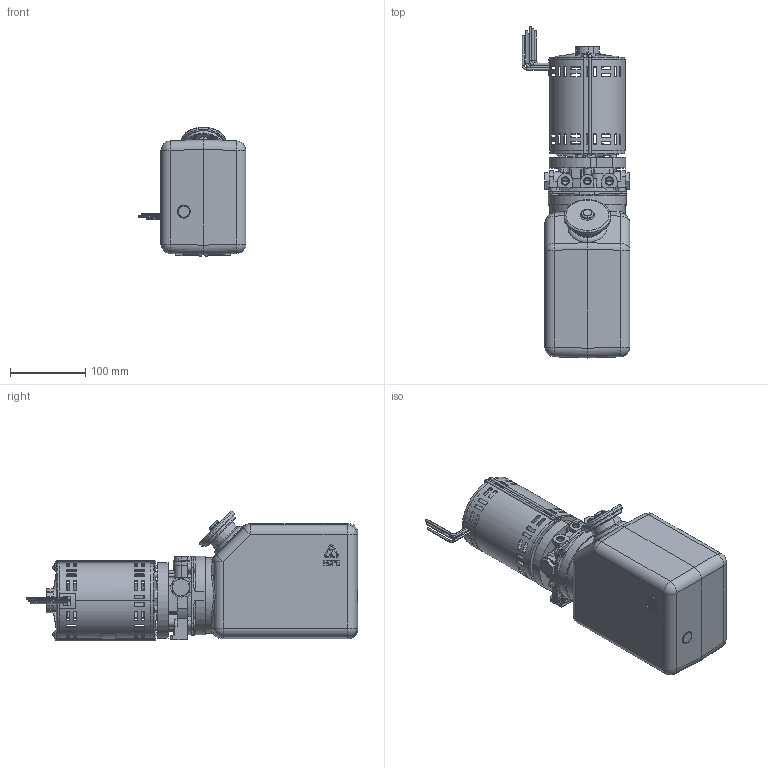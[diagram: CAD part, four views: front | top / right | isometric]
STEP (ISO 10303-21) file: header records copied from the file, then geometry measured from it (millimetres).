
FILE_DESCRIPTION((''),'2;1');
FILE_NAME('108-HA-HD-Q_ASM','2016-04-26T',('DA10877'),('OILDYNE'),'PRO/ENGINEER BY PARAMETRIC TECHNOLOGY CORPORATION, 2009300','PRO/ENGINEER BY PARAMETRIC TECHNOLOGY CORPORATION, 2009300','');
FILE_SCHEMA(('CONFIG_CONTROL_DESIGN'));
Products named in the file (1): 108-HA-HD-Q_ASM
Bounding box: 142.88 x 439.78 x 171.91 mm (x, y, z)
Volume: 632631.9 mm3; surface area: 465419.5 mm2
Topology: 12 solids, 28 shells, 2013 faces, 5450 edges, 3491 vertices
Faces by surface type: plane 908, cylinder 749, cone 156, torus 141, bspline 35, sphere 24
Entity records: 68712 total; most frequent: CARTESIAN_POINT 18284, ORIENTED_EDGE 10734, DIRECTION 10290, EDGE_CURVE 5406, AXIS2_PLACEMENT_3D 3793, VERTEX_POINT 3483, VECTOR 2704, LINE 2704
